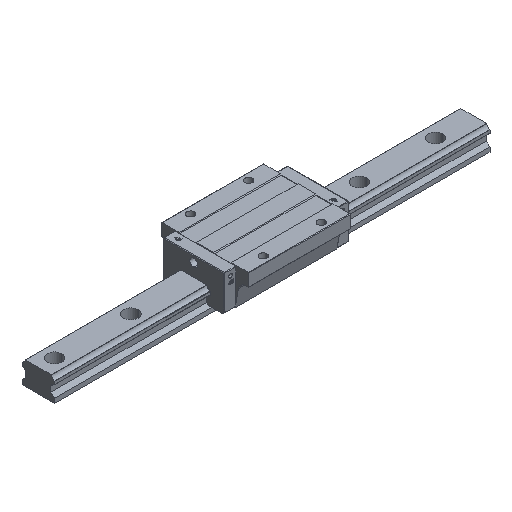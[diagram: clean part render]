
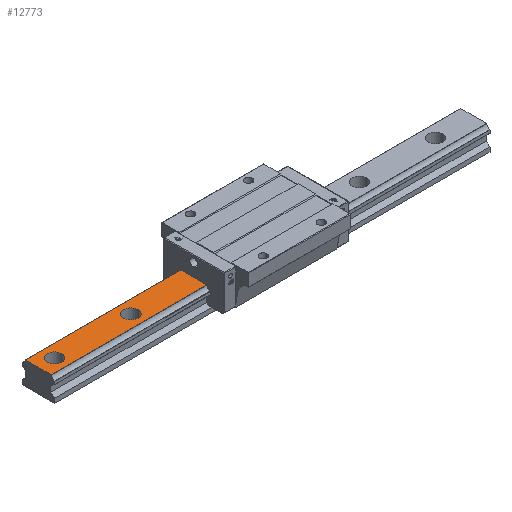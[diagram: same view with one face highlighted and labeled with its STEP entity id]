
A CAD part, isometric view. The second image highlights one B-rep face of the part: STEP entity #12773.
In plain terms, the highlighted planar face has unit normal (0, 0, 1).
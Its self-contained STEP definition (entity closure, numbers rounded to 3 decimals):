
#236 = VECTOR ( 'NONE', #3518, 1000. ) ;
#461 = VERTEX_POINT ( 'NONE', #12888 ) ;
#484 = ORIENTED_EDGE ( 'NONE', *, *, #6337, .F. ) ;
#514 = VECTOR ( 'NONE', #12208, 1000. ) ;
#733 = EDGE_CURVE ( 'NONE', #9178, #12467, #4380, .T. ) ;
#788 = CARTESIAN_POINT ( 'NONE',  ( -277.5, 0., 32. ) ) ;
#839 = CARTESIAN_POINT ( 'NONE',  ( -300., 17.738, 32. ) ) ;
#890 = ORIENTED_EDGE ( 'NONE', *, *, #1021, .T. ) ;
#1021 = EDGE_CURVE ( 'NONE', #5946, #3167, #6936, .T. ) ;
#1228 = EDGE_LOOP ( 'NONE', ( #484, #2327, #4142, #5510 ) ) ;
#1292 = DIRECTION ( 'NONE',  ( -1., 0., 0. ) ) ;
#2172 = VERTEX_POINT ( 'NONE', #10524 ) ;
#2272 = EDGE_LOOP ( 'NONE', ( #4751, #10483 ) ) ;
#2327 = ORIENTED_EDGE ( 'NONE', *, *, #3877, .T. ) ;
#2483 = PLANE ( 'NONE',  #3705 ) ;
#2680 = AXIS2_PLACEMENT_3D ( 'NONE', #14502, #6450, #13131 ) ;
#2850 = CARTESIAN_POINT ( 'NONE',  ( -182.5, 0., 32. ) ) ;
#2998 = DIRECTION ( 'NONE',  ( 0., 0., -1. ) ) ;
#3167 = VERTEX_POINT ( 'NONE', #2850 ) ;
#3351 = CARTESIAN_POINT ( 'NONE',  ( 300., -17.738, 32. ) ) ;
#3485 = FACE_OUTER_BOUND ( 'NONE', #1228, .T. ) ;
#3518 = DIRECTION ( 'NONE',  ( -1., 0., 0. ) ) ;
#3705 = AXIS2_PLACEMENT_3D ( 'NONE', #13872, #4767, #9457 ) ;
#3877 = EDGE_CURVE ( 'NONE', #461, #9178, #5564, .T. ) ;
#4142 = ORIENTED_EDGE ( 'NONE', *, *, #733, .T. ) ;
#4380 = LINE ( 'NONE', #10071, #9120 ) ;
#4620 = EDGE_CURVE ( 'NONE', #11350, #11483, #12624, .T. ) ;
#4751 = ORIENTED_EDGE ( 'NONE', *, *, #13685, .T. ) ;
#4767 = DIRECTION ( 'NONE',  ( 0., 0., -1. ) ) ;
#5117 = DIRECTION ( 'NONE',  ( 0., 0., -1. ) ) ;
#5361 = EDGE_CURVE ( 'NONE', #3167, #5946, #11907, .T. ) ;
#5510 = ORIENTED_EDGE ( 'NONE', *, *, #8245, .T. ) ;
#5564 = LINE ( 'NONE', #11555, #236 ) ;
#5946 = VERTEX_POINT ( 'NONE', #9741 ) ;
#6330 = CIRCLE ( 'NONE', #14829, 10. ) ;
#6337 = EDGE_CURVE ( 'NONE', #461, #2172, #8875, .T. ) ;
#6450 = DIRECTION ( 'NONE',  ( 0., 0., -1. ) ) ;
#6936 = CIRCLE ( 'NONE', #13976, 10. ) ;
#7091 = DIRECTION ( 'NONE',  ( -1., 0., 0. ) ) ;
#7097 = EDGE_LOOP ( 'NONE', ( #890, #12686 ) ) ;
#7581 = CARTESIAN_POINT ( 'NONE',  ( -85.7, -17.738, 32. ) ) ;
#8199 = CARTESIAN_POINT ( 'NONE',  ( -172.5, 0., 32. ) ) ;
#8245 = EDGE_CURVE ( 'NONE', #12467, #2172, #10096, .T. ) ;
#8308 = CARTESIAN_POINT ( 'NONE',  ( -172.5, 0., 32. ) ) ;
#8342 = CARTESIAN_POINT ( 'NONE',  ( -267.5, 0., 32. ) ) ;
#8875 = LINE ( 'NONE', #7581, #514 ) ;
#9120 = VECTOR ( 'NONE', #11054, 1000. ) ;
#9178 = VERTEX_POINT ( 'NONE', #839 ) ;
#9334 = CARTESIAN_POINT ( 'NONE',  ( -300., -17.738, 32. ) ) ;
#9457 = DIRECTION ( 'NONE',  ( 0., -1., 0. ) ) ;
#9741 = CARTESIAN_POINT ( 'NONE',  ( -162.5, 0., 32. ) ) ;
#10071 = CARTESIAN_POINT ( 'NONE',  ( -300., 0., 32. ) ) ;
#10096 = LINE ( 'NONE', #3351, #13011 ) ;
#10483 = ORIENTED_EDGE ( 'NONE', *, *, #4620, .T. ) ;
#10524 = CARTESIAN_POINT ( 'NONE',  ( -85.7, -17.738, 32. ) ) ;
#10533 = FACE_BOUND ( 'NONE', #7097, .T. ) ;
#11054 = DIRECTION ( 'NONE',  ( 0., -1., 0. ) ) ;
#11350 = VERTEX_POINT ( 'NONE', #12368 ) ;
#11483 = VERTEX_POINT ( 'NONE', #8342 ) ;
#11555 = CARTESIAN_POINT ( 'NONE',  ( 300., 17.738, 32. ) ) ;
#11688 = DIRECTION ( 'NONE',  ( 0., 0., -1. ) ) ;
#11907 = CIRCLE ( 'NONE', #13859, 10. ) ;
#12208 = DIRECTION ( 'NONE',  ( 0., -1., 0. ) ) ;
#12250 = DIRECTION ( 'NONE',  ( -1., 0., 0. ) ) ;
#12368 = CARTESIAN_POINT ( 'NONE',  ( -287.5, 0., 32. ) ) ;
#12467 = VERTEX_POINT ( 'NONE', #9334 ) ;
#12624 = CIRCLE ( 'NONE', #2680, 10. ) ;
#12686 = ORIENTED_EDGE ( 'NONE', *, *, #5361, .T. ) ;
#12773 = ADVANCED_FACE ( 'NONE', ( #10533, #14020, #3485 ), #2483, .F. ) ;
#12888 = CARTESIAN_POINT ( 'NONE',  ( -85.7, 17.738, 32. ) ) ;
#13011 = VECTOR ( 'NONE', #14723, 1000. ) ;
#13131 = DIRECTION ( 'NONE',  ( -1., 0., 0. ) ) ;
#13685 = EDGE_CURVE ( 'NONE', #11483, #11350, #6330, .T. ) ;
#13859 = AXIS2_PLACEMENT_3D ( 'NONE', #8199, #11688, #1292 ) ;
#13872 = CARTESIAN_POINT ( 'NONE',  ( 300., 0., 32. ) ) ;
#13976 = AXIS2_PLACEMENT_3D ( 'NONE', #8308, #5117, #7091 ) ;
#14020 = FACE_BOUND ( 'NONE', #2272, .T. ) ;
#14502 = CARTESIAN_POINT ( 'NONE',  ( -277.5, 0., 32. ) ) ;
#14723 = DIRECTION ( 'NONE',  ( 1., 0., 0. ) ) ;
#14829 = AXIS2_PLACEMENT_3D ( 'NONE', #788, #2998, #12250 ) ;
